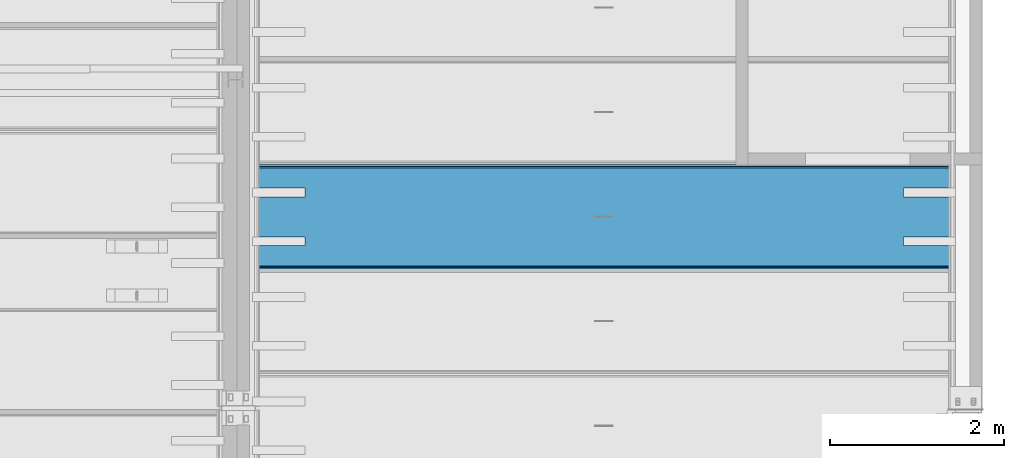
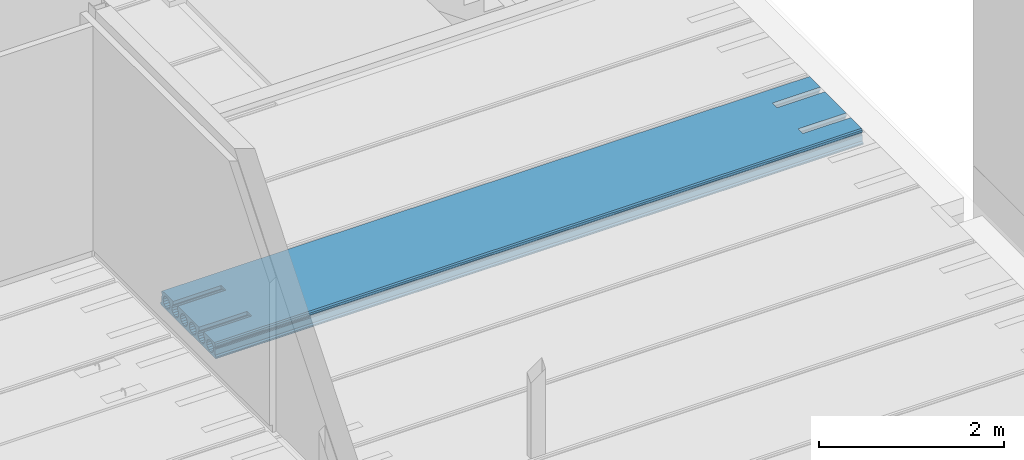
# One storey, part 121 of 230: 1 beam.
"""IFC4X3_ADD2 building model written with IfcOpenShell, lengths in millimetres."""

from ifc_helpers import new_model, si_unit, direction, origin_with_axes, place, context, subcontext, project, spatial, polygons, element, save


model = new_model("IFC4X3_ADD2")

# Units and contexts
model_context = context("Model", 3, precision=1e-05, world=origin_with_axes(), true_north=direction((0.0, 1.0)))
body_context = subcontext(model_context, "Body", "Model", "MODEL_VIEW")
ifc_project = project(units=[si_unit("LENGTHUNIT", "METRE", prefix="MILLI"), si_unit("AREAUNIT", "SQUARE_METRE"), si_unit("VOLUMEUNIT", "CUBIC_METRE"), si_unit("PLANEANGLEUNIT", "RADIAN"), si_unit("TIMEUNIT", "SECOND"), si_unit("MASSUNIT", "GRAM")], contexts=[model_context])

# Site, building, storey
site_placement = place(None, origin_with_axes())
site = spatial("IfcSite", under=ifc_project, at=site_placement, Name="Site", CompositionType="ELEMENT")
building_placement = place(site_placement, origin_with_axes())
building = spatial("IfcBuilding", under=site, at=building_placement, Name="IFC Building Story")
storey_placement = place(building_placement, origin_with_axes())
storey = spatial("IfcBuildingStorey", under=building, at=storey_placement, Name="ETAGE 00 (0)", Elevation=0.0)

# Beam
beam_placement = place(storey_placement, origin_with_axes())
element("IfcBeam", 1, at=beam_placement, inside=storey, Name="HOLLOWCORE SLAB", ObjectType="EB_SP200", context=body_context, shape_type="Tessellation", body=[
    polygons([(40131.189, 15349.0, 3999.9999909), (40131.189, 14171.0, 3999.9999909), (40131.189, 14160.0, 4012.9999909), (40131.189, 14160.0, 4029.9999909), (40131.189, 14180.0, 4044.9999909), (40131.189, 14181.45001220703, 4119.9999909), (40131.189, 14188.98262147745, 4128.676139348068), (40131.189, 14191.83993001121, 4139.805000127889), (40131.189, 14189.41863641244, 4151.036789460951), (40131.189, 14182.22998046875, 4159.9999909), (40131.189, 14182.71129616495, 4185.002769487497), (40131.189, 14198.0, 4199.9999909), (40131.189, 14430.0, 4199.9999909), (40131.189, 14430.0, 4155.806158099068), (40131.189, 14425.3205448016, 4152.679446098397), (40131.189, 14409.17097482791, 4128.509906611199), (40131.189, 14403.5, 4099.9999909), (40131.189, 14409.17097482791, 4071.490075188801), (40131.189, 14425.3205448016, 4047.320535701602), (40131.189, 14449.4900842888, 4031.170965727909), (40131.189, 14478.0, 4025.4999909), (40131.189, 14506.5099157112, 4031.170965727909), (40131.189, 14530.6794551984, 4047.320535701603), (40131.189, 14546.82902517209, 4071.490075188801), (40131.189, 14552.5, 4099.9999909), (40131.189, 14546.82902517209, 4128.509906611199), (40131.189, 14530.6794551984, 4152.679446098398), (40131.189, 14530.0, 4153.133443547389), (40131.189, 14530.0, 4199.9999909), (40131.189, 14990.0, 4199.9999909), (40131.189, 14990.0, 4153.133443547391), (40131.189, 14989.3205448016, 4152.679446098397), (40131.189, 14973.17097482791, 4128.509906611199), (40131.189, 14967.5, 4099.9999909), (40131.189, 14973.17097482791, 4071.490075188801), (40131.189, 14989.3205448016, 4047.320535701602), (40131.189, 15013.4900842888, 4031.170965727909), (40131.189, 15042.0, 4025.4999909), (40131.189, 15070.5099157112, 4031.170965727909), (40131.189, 15094.6794551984, 4047.320535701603), (40131.189, 15110.82902517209, 4071.490075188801), (40131.189, 15116.5, 4099.9999909), (40131.189, 15110.82902517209, 4128.509906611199), (40131.189, 15094.6794551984, 4152.679446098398), (40131.189, 15090.0, 4155.806158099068), (40131.189, 15090.0, 4199.9999909), (40131.189, 15322.0, 4199.9999909), (40131.189, 15337.28870383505, 4185.002769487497), (40131.189, 15337.77001953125, 4159.9999909), (40131.189, 15330.58136358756, 4151.036789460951), (40131.189, 15328.16006998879, 4139.805000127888), (40131.189, 15331.01737852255, 4128.676139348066), (40131.189, 15338.54998779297, 4119.9999909), (40131.189, 15340.0, 4044.9999909), (40131.189, 15360.0, 4029.9999909), (40131.189, 15360.0, 4012.9999909), (40131.189, 15282.6794551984, 4152.679446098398), (40131.189, 15258.5099157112, 4168.829016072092), (40131.189, 15230.0, 4174.4999909), (40131.189, 15201.4900842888, 4168.829016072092), (40131.189, 15177.3205448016, 4152.679446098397), (40131.189, 15161.17097482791, 4128.509906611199), (40131.189, 15155.5, 4099.9999909), (40131.189, 15161.17097482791, 4071.490075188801), (40131.189, 15177.3205448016, 4047.320535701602), (40131.189, 15201.4900842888, 4031.170965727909), (40131.189, 15230.0, 4025.4999909), (40131.189, 15258.5099157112, 4031.170965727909), (40131.189, 15282.6794551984, 4047.320535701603), (40131.189, 15298.82902517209, 4071.490075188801), (40131.189, 15304.5, 4099.9999909), (40131.189, 15298.82902517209, 4128.509906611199), (40131.189, 14906.6794551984, 4152.679446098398), (40131.189, 14882.5099157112, 4168.829016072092), (40131.189, 14854.0, 4174.4999909), (40131.189, 14825.4900842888, 4168.829016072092), (40131.189, 14801.3205448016, 4152.679446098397), (40131.189, 14785.17097482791, 4128.509906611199), (40131.189, 14779.5, 4099.9999909), (40131.189, 14785.17097482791, 4071.490075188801), (40131.189, 14801.3205448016, 4047.320535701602), (40131.189, 14825.4900842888, 4031.170965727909), (40131.189, 14854.0, 4025.4999909), (40131.189, 14882.5099157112, 4031.170965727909), (40131.189, 14906.6794551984, 4047.320535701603), (40131.189, 14922.82902517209, 4071.490075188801), (40131.189, 14928.5, 4099.9999909), (40131.189, 14922.82902517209, 4128.509906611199), (40131.189, 14718.6794551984, 4152.679446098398), (40131.189, 14694.5099157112, 4168.829016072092), (40131.189, 14666.0, 4174.4999909), (40131.189, 14637.4900842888, 4168.829016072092), (40131.189, 14613.3205448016, 4152.679446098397), (40131.189, 14597.17097482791, 4128.509906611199), (40131.189, 14591.5, 4099.9999909), (40131.189, 14597.17097482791, 4071.490075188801), (40131.189, 14613.3205448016, 4047.320535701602), (40131.189, 14637.4900842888, 4031.170965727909), (40131.189, 14666.0, 4025.4999909), (40131.189, 14694.5099157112, 4031.170965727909), (40131.189, 14718.6794551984, 4047.320535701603), (40131.189, 14734.82902517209, 4071.490075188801), (40131.189, 14740.5, 4099.9999909), (40131.189, 14734.82902517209, 4128.509906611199), (40131.189, 14342.6794551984, 4152.679446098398), (40131.189, 14318.5099157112, 4168.829016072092), (40131.189, 14290.0, 4174.4999909), (40131.189, 14261.4900842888, 4168.829016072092), (40131.189, 14237.3205448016, 4152.679446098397), (40131.189, 14221.17097482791, 4128.509906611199), (40131.189, 14215.5, 4099.9999909), (40131.189, 14221.17097482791, 4071.490075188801), (40131.189, 14237.3205448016, 4047.320535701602), (40131.189, 14261.4900842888, 4031.170965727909), (40131.189, 14290.0, 4025.4999909), (40131.189, 14318.5099157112, 4031.170965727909), (40131.189, 14342.6794551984, 4047.320535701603), (40131.189, 14358.82902517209, 4071.490075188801), (40131.189, 14364.5, 4099.9999909), (40131.189, 14358.82902517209, 4128.509906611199), (48196.189, 15349.0, 3999.9999909), (48196.189, 15360.0, 4012.9999909), (48196.189, 15360.0, 4029.9999909), (48196.189, 15340.0, 4044.9999909), (48196.189, 15338.54998779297, 4119.9999909), (48196.189, 15331.01737852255, 4128.676139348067), (48196.189, 15328.16006998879, 4139.805000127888), (48196.189, 15330.58136358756, 4151.036789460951), (48196.189, 15337.77001953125, 4159.9999909), (48196.189, 15337.28870383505, 4185.002769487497), (48196.189, 15322.0, 4199.9999909), (48196.189, 15090.0, 4199.9999909), (48196.189, 15090.0, 4155.806158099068), (48196.189, 15094.6794551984, 4152.679446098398), (48196.189, 15110.82902517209, 4128.509906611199), (48196.189, 15116.5, 4099.9999909), (48196.189, 15110.82902517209, 4071.490075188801), (48196.189, 15094.6794551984, 4047.320535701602), (48196.189, 15070.5099157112, 4031.170965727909), (48196.189, 15042.0, 4025.4999909), (48196.189, 15013.4900842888, 4031.170965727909), (48196.189, 14989.3205448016, 4047.320535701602), (48196.189, 14973.17097482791, 4071.490075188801), (48196.189, 14967.5, 4099.9999909), (48196.189, 14973.17097482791, 4128.509906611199), (48196.189, 14989.3205448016, 4152.679446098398), (48196.189, 14990.0, 4153.133443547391), (48196.189, 14990.0, 4199.9999909), (48196.189, 14530.0, 4199.9999909), (48196.189, 14530.0, 4153.133443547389), (48196.189, 14530.6794551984, 4152.679446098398), (48196.189, 14546.82902517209, 4128.509906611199), (48196.189, 14552.5, 4099.9999909), (48196.189, 14546.82902517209, 4071.490075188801), (48196.189, 14530.6794551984, 4047.320535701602), (48196.189, 14506.5099157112, 4031.170965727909), (48196.189, 14478.0, 4025.4999909), (48196.189, 14449.4900842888, 4031.170965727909), (48196.189, 14425.3205448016, 4047.320535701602), (48196.189, 14409.17097482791, 4071.490075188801), (48196.189, 14403.5, 4099.9999909), (48196.189, 14409.17097482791, 4128.509906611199), (48196.189, 14425.3205448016, 4152.679446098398), (48196.189, 14430.0, 4155.806158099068), (48196.189, 14430.0, 4199.9999909), (48196.189, 14198.0, 4199.9999909), (48196.189, 14182.71129616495, 4185.002769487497), (48196.189, 14182.22998046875, 4159.9999909), (48196.189, 14189.41863641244, 4151.036789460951), (48196.189, 14191.83993001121, 4139.805000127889), (48196.189, 14188.98262147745, 4128.676139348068), (48196.189, 14181.45001220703, 4119.9999909), (48196.189, 14180.0, 4044.9999909), (48196.189, 14160.0, 4029.9999909), (48196.189, 14160.0, 4012.9999909), (48196.189, 14171.0, 3999.9999909), (48196.189, 15282.6794551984, 4152.679446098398), (48196.189, 15298.82902517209, 4128.509906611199), (48196.189, 15304.5, 4099.9999909), (48196.189, 15298.82902517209, 4071.490075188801), (48196.189, 15282.6794551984, 4047.320535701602), (48196.189, 15258.5099157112, 4031.170965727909), (48196.189, 15230.0, 4025.4999909), (48196.189, 15201.4900842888, 4031.170965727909), (48196.189, 15177.3205448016, 4047.320535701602), (48196.189, 15161.17097482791, 4071.490075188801), (48196.189, 15155.5, 4099.9999909), (48196.189, 15161.17097482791, 4128.509906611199), (48196.189, 15177.3205448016, 4152.679446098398), (48196.189, 15201.4900842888, 4168.829016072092), (48196.189, 15230.0, 4174.4999909), (48196.189, 15258.5099157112, 4168.829016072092), (48196.189, 14906.6794551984, 4152.679446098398), (48196.189, 14922.82902517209, 4128.509906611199), (48196.189, 14928.5, 4099.9999909), (48196.189, 14922.82902517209, 4071.490075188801), (48196.189, 14906.6794551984, 4047.320535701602), (48196.189, 14882.5099157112, 4031.170965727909), (48196.189, 14854.0, 4025.4999909), (48196.189, 14825.4900842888, 4031.170965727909), (48196.189, 14801.3205448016, 4047.320535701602), (48196.189, 14785.17097482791, 4071.490075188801), (48196.189, 14779.5, 4099.9999909), (48196.189, 14785.17097482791, 4128.509906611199), (48196.189, 14801.3205448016, 4152.679446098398), (48196.189, 14825.4900842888, 4168.829016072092), (48196.189, 14854.0, 4174.4999909), (48196.189, 14882.5099157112, 4168.829016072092), (48196.189, 14718.6794551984, 4152.679446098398), (48196.189, 14734.82902517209, 4128.509906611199), (48196.189, 14740.5, 4099.9999909), (48196.189, 14734.82902517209, 4071.490075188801), (48196.189, 14718.6794551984, 4047.320535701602), (48196.189, 14694.5099157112, 4031.170965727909), (48196.189, 14666.0, 4025.4999909), (48196.189, 14637.4900842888, 4031.170965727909), (48196.189, 14613.3205448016, 4047.320535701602), (48196.189, 14597.17097482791, 4071.490075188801), (48196.189, 14591.5, 4099.9999909), (48196.189, 14597.17097482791, 4128.509906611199), (48196.189, 14613.3205448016, 4152.679446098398), (48196.189, 14637.4900842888, 4168.829016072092), (48196.189, 14666.0, 4174.4999909), (48196.189, 14694.5099157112, 4168.829016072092), (48196.189, 14342.6794551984, 4152.679446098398), (48196.189, 14358.82902517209, 4128.509906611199), (48196.189, 14364.5, 4099.9999909), (48196.189, 14358.82902517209, 4071.490075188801), (48196.189, 14342.6794551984, 4047.320535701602), (48196.189, 14318.5099157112, 4031.170965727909), (48196.189, 14290.0, 4025.4999909), (48196.189, 14261.4900842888, 4031.170965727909), (48196.189, 14237.3205448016, 4047.320535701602), (48196.189, 14221.17097482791, 4071.490075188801), (48196.189, 14215.5, 4099.9999909), (48196.189, 14221.17097482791, 4128.509906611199), (48196.189, 14237.3205448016, 4152.679446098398), (48196.189, 14261.4900842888, 4168.829016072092), (48196.189, 14290.0, 4174.4999909), (48196.189, 14318.5099157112, 4168.829016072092), (40731.189, 15090.0, 4199.9999909), (40731.189, 14990.0, 4199.9999909), (40731.189, 14530.0, 4199.9999909), (40731.189, 14430.0, 4199.9999909), (47596.18900000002, 14430.0, 4199.9999909), (47596.18900000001, 14530.0, 4199.9999909), (47596.18900000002, 14990.0, 4199.9999909), (47596.18900000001, 15090.0, 4199.9999909), (47596.18900000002, 15090.0, 4155.806158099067), (47596.18900000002, 15070.5099157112, 4168.829016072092), (40731.189, 15070.5099157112, 4168.82901607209), (40731.189, 15090.0, 4155.806158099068), (47596.18900000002, 15042.0, 4174.4999909), (40731.189, 15042.0, 4174.4999909), (47596.18900000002, 15013.4900842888, 4168.829016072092), (40731.189, 15013.4900842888, 4168.82901607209), (40731.189, 14990.0, 4153.133443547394), (47596.18900000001, 14990.0, 4153.133443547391), (47596.18900000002, 14530.0, 4153.133443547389), (47596.18900000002, 14506.5099157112, 4168.829016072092), (40731.189, 14506.5099157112, 4168.82901607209), (40731.189, 14530.0, 4153.13344354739), (47596.18900000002, 14478.0, 4174.4999909), (40731.189, 14478.0, 4174.4999909), (47596.18900000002, 14449.4900842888, 4168.829016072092), (40731.189, 14449.4900842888, 4168.829016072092), (40731.189, 14430.0, 4155.806158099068), (47596.18900000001, 14430.0, 4155.806158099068), (40731.189, 14990.0, 4199.999996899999), (40731.189, 15090.0, 4199.999996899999), (47596.18900000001, 15090.0, 4199.999996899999), (47596.18900000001, 14990.0, 4199.999996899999), (47596.18900000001, 14530.0, 4199.999996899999), (47596.18900000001, 14430.0, 4199.999996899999), (40731.189, 14430.0, 4199.999996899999), (40731.189, 14530.0, 4199.999996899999)], [[[27, 28, 29]], [[92, 93, 26]], [[92, 26, 27]], [[92, 27, 29]], [[29, 91, 92]], [[91, 29, 30]], [[30, 90, 91]], [[30, 89, 90]], [[94, 95, 25]], [[94, 25, 26]], [[26, 93, 94]], [[96, 97, 24]], [[24, 25, 95]], [[24, 95, 96]], [[97, 23, 24]], [[76, 77, 104]], [[76, 104, 89]], [[89, 75, 76]], [[75, 89, 30]], [[30, 74, 75]], [[30, 73, 74]], [[78, 79, 103]], [[78, 103, 104]], [[104, 77, 78]], [[80, 81, 102]], [[102, 103, 79]], [[102, 79, 80]], [[81, 101, 102]], [[88, 73, 30]], [[88, 30, 31]], [[33, 34, 87]], [[33, 87, 88]], [[88, 32, 33]], [[88, 31, 32]], [[35, 36, 86]], [[86, 87, 34]], [[86, 34, 35]], [[36, 85, 86]], [[44, 45, 46]], [[60, 61, 43]], [[60, 43, 44]], [[60, 44, 46]], [[46, 59, 60]], [[46, 47, 59]], [[47, 58, 59]], [[47, 57, 58]], [[62, 63, 42]], [[62, 42, 43]], [[43, 61, 62]], [[64, 65, 41]], [[41, 42, 63]], [[41, 63, 64]], [[50, 51, 72]], [[50, 72, 57]], [[57, 47, 48]], [[57, 48, 49]], [[57, 49, 50]], [[52, 53, 71]], [[52, 71, 72]], [[72, 51, 52]], [[53, 54, 70]], [[53, 70, 71]], [[54, 55, 56]], [[54, 56, 1]], [[1, 69, 70]], [[1, 70, 54]], [[1, 68, 69]], [[1, 67, 68]], [[1, 66, 67]], [[1, 40, 66]], [[40, 41, 65]], [[40, 65, 66]], [[1, 39, 40]], [[1, 38, 39]], [[1, 84, 38]], [[84, 37, 38]], [[84, 85, 36]], [[84, 36, 37]], [[1, 83, 84]], [[1, 100, 83]], [[100, 82, 83]], [[100, 101, 81]], [[100, 81, 82]], [[1, 99, 100]], [[1, 22, 99]], [[22, 98, 99]], [[22, 23, 97]], [[22, 97, 98]], [[1, 21, 22]], [[1, 2, 21]], [[2, 20, 21]], [[2, 19, 20]], [[9, 10, 11]], [[9, 11, 12]], [[109, 110, 8]], [[109, 8, 9]], [[9, 12, 108]], [[9, 108, 109]], [[12, 107, 108]], [[107, 12, 13]], [[13, 106, 107]], [[13, 105, 106]], [[110, 7, 8]], [[112, 113, 5]], [[5, 6, 111]], [[5, 111, 112]], [[6, 7, 110]], [[6, 110, 111]], [[116, 117, 18]], [[116, 18, 19]], [[19, 115, 116]], [[19, 2, 115]], [[2, 114, 115]], [[2, 5, 113]], [[2, 113, 114]], [[2, 3, 4]], [[2, 4, 5]], [[118, 119, 17]], [[118, 17, 18]], [[18, 117, 118]], [[120, 105, 16]], [[16, 17, 119]], [[16, 119, 120]], [[105, 13, 15]], [[105, 15, 16]], [[13, 14, 15]], [[173, 174, 175]], [[173, 175, 176]], [[128, 129, 130]], [[128, 130, 131]], [[128, 131, 177]], [[177, 178, 127]], [[177, 127, 128]], [[178, 126, 127]], [[180, 181, 124]], [[124, 125, 179]], [[124, 179, 180]], [[125, 126, 178]], [[125, 178, 179]], [[192, 177, 131]], [[131, 191, 192]], [[191, 131, 132]], [[132, 190, 191]], [[132, 189, 190]], [[132, 133, 188]], [[132, 188, 189]], [[135, 136, 187]], [[135, 187, 188]], [[188, 134, 135]], [[188, 133, 134]], [[137, 138, 186]], [[186, 187, 136]], [[186, 136, 137]], [[138, 139, 185]], [[138, 185, 186]], [[139, 184, 185]], [[146, 147, 148]], [[148, 193, 145]], [[148, 145, 146]], [[194, 195, 144]], [[194, 144, 145]], [[145, 193, 194]], [[196, 197, 143]], [[143, 144, 195]], [[143, 195, 196]], [[197, 142, 143]], [[208, 193, 148]], [[148, 207, 208]], [[148, 209, 207]], [[209, 206, 207]], [[209, 205, 206]], [[209, 204, 205]], [[210, 211, 203]], [[210, 203, 204]], [[204, 209, 210]], [[212, 213, 202]], [[202, 203, 211]], [[202, 211, 212]], [[213, 201, 202]], [[224, 209, 148]], [[148, 223, 224]], [[148, 149, 223]], [[149, 222, 223]], [[149, 221, 222]], [[149, 150, 220]], [[149, 220, 221]], [[152, 153, 219]], [[152, 219, 220]], [[220, 151, 152]], [[220, 150, 151]], [[154, 155, 218]], [[218, 219, 153]], [[218, 153, 154]], [[155, 217, 218]], [[163, 164, 165]], [[165, 225, 162]], [[165, 162, 163]], [[226, 227, 161]], [[226, 161, 162]], [[162, 225, 226]], [[228, 229, 160]], [[160, 161, 227]], [[160, 227, 228]], [[235, 236, 171]], [[235, 171, 172]], [[172, 173, 234]], [[172, 234, 235]], [[173, 176, 233]], [[173, 233, 234]], [[176, 232, 233]], [[176, 231, 232]], [[176, 230, 231]], [[176, 159, 230]], [[159, 160, 229]], [[159, 229, 230]], [[176, 158, 159]], [[176, 157, 158]], [[176, 216, 157]], [[216, 156, 157]], [[216, 217, 155]], [[216, 155, 156]], [[176, 215, 216]], [[176, 200, 215]], [[200, 214, 215]], [[200, 201, 213]], [[200, 213, 214]], [[176, 199, 200]], [[176, 141, 199]], [[141, 198, 199]], [[141, 142, 197]], [[141, 197, 198]], [[176, 140, 141]], [[176, 183, 140]], [[183, 184, 139]], [[183, 139, 140]], [[176, 121, 183]], [[121, 182, 183]], [[121, 124, 181]], [[121, 181, 182]], [[121, 122, 123]], [[121, 123, 124]], [[236, 170, 171]], [[240, 225, 165]], [[165, 239, 240]], [[165, 166, 239]], [[166, 238, 239]], [[166, 169, 237]], [[166, 237, 238]], [[169, 170, 236]], [[169, 236, 237]], [[166, 167, 168]], [[166, 168, 169]], [[2, 1, 121, 176]], [[3, 2, 176, 175]], [[4, 3, 175, 174]], [[5, 4, 174, 173]], [[6, 5, 173, 172]], [[7, 6, 172, 171]], [[8, 7, 171, 170]], [[9, 8, 170, 169]], [[10, 9, 169, 168]], [[11, 10, 168, 167]], [[12, 11, 167, 166]], [[242, 30, 29]], [[242, 29, 243]], [[244, 13, 12]], [[244, 12, 166]], [[166, 243, 244]], [[242, 243, 166]], [[166, 241, 242]], [[246, 149, 148]], [[246, 148, 247]], [[248, 132, 131]], [[248, 131, 47]], [[47, 247, 248]], [[246, 247, 47]], [[47, 245, 246]], [[47, 241, 166]], [[47, 166, 245]], [[166, 165, 245]], [[47, 46, 241]], [[48, 47, 131, 130]], [[49, 48, 130, 129]], [[50, 49, 129, 128]], [[51, 50, 128, 127]], [[52, 51, 127, 126]], [[53, 52, 126, 125]], [[54, 53, 125, 124]], [[55, 54, 124, 123]], [[56, 55, 123, 122]], [[1, 56, 122, 121]], [[58, 57, 177, 192]], [[59, 58, 192, 191]], [[60, 59, 191, 190]], [[61, 60, 190, 189]], [[62, 61, 189, 188]], [[63, 62, 188, 187]], [[64, 63, 187, 186]], [[65, 64, 186, 185]], [[66, 65, 185, 184]], [[67, 66, 184, 183]], [[68, 67, 183, 182]], [[69, 68, 182, 181]], [[70, 69, 181, 180]], [[71, 70, 180, 179]], [[72, 71, 179, 178]], [[57, 72, 178, 177]], [[252, 45, 44]], [[252, 44, 249]], [[249, 250, 251]], [[249, 251, 252]], [[44, 134, 249]], [[134, 133, 249]], [[251, 250, 253, 254]], [[254, 253, 255, 256]], [[258, 147, 146]], [[258, 146, 257]], [[257, 256, 255]], [[257, 255, 258]], [[146, 32, 257]], [[32, 31, 257]], [[33, 32, 146, 145]], [[34, 33, 145, 144]], [[35, 34, 144, 143]], [[36, 35, 143, 142]], [[37, 36, 142, 141]], [[38, 37, 141, 140]], [[39, 38, 140, 139]], [[40, 39, 139, 138]], [[41, 40, 138, 137]], [[42, 41, 137, 136]], [[43, 42, 136, 135]], [[44, 43, 135, 134]], [[74, 73, 193, 208]], [[75, 74, 208, 207]], [[76, 75, 207, 206]], [[77, 76, 206, 205]], [[78, 77, 205, 204]], [[79, 78, 204, 203]], [[80, 79, 203, 202]], [[81, 80, 202, 201]], [[82, 81, 201, 200]], [[83, 82, 200, 199]], [[84, 83, 199, 198]], [[85, 84, 198, 197]], [[86, 85, 197, 196]], [[87, 86, 196, 195]], [[88, 87, 195, 194]], [[73, 88, 194, 193]], [[90, 89, 209, 224]], [[91, 90, 224, 223]], [[92, 91, 223, 222]], [[93, 92, 222, 221]], [[94, 93, 221, 220]], [[95, 94, 220, 219]], [[96, 95, 219, 218]], [[97, 96, 218, 217]], [[98, 97, 217, 216]], [[99, 98, 216, 215]], [[100, 99, 215, 214]], [[101, 100, 214, 213]], [[102, 101, 213, 212]], [[103, 102, 212, 211]], [[104, 103, 211, 210]], [[89, 104, 210, 209]], [[262, 28, 27]], [[262, 27, 259]], [[259, 260, 261]], [[259, 261, 262]], [[27, 151, 259]], [[151, 150, 259]], [[260, 263, 264, 261]], [[263, 265, 266, 264]], [[268, 164, 163]], [[268, 163, 267]], [[267, 266, 265]], [[267, 265, 268]], [[163, 15, 267]], [[15, 14, 267]], [[16, 15, 163, 162]], [[17, 16, 162, 161]], [[18, 17, 161, 160]], [[19, 18, 160, 159]], [[20, 19, 159, 158]], [[21, 20, 158, 157]], [[22, 21, 157, 156]], [[23, 22, 156, 155]], [[24, 23, 155, 154]], [[25, 24, 154, 153]], [[26, 25, 153, 152]], [[27, 26, 152, 151]], [[106, 105, 225, 240]], [[107, 106, 240, 239]], [[108, 107, 239, 238]], [[109, 108, 238, 237]], [[110, 109, 237, 236]], [[111, 110, 236, 235]], [[112, 111, 235, 234]], [[113, 112, 234, 233]], [[114, 113, 233, 232]], [[115, 114, 232, 231]], [[116, 115, 231, 230]], [[117, 116, 230, 229]], [[118, 117, 229, 228]], [[119, 118, 228, 227]], [[120, 119, 227, 226]], [[105, 120, 226, 225]], [[46, 45, 252, 241]], [[31, 30, 269, 257]], [[256, 257, 242]], [[242, 270, 254]], [[242, 254, 256]], [[270, 251, 254]], [[270, 252, 251]], [[148, 147, 258, 247]], [[133, 132, 271, 249]], [[250, 249, 248]], [[248, 253, 250]], [[248, 272, 255]], [[248, 255, 253]], [[272, 258, 255]], [[165, 164, 268, 245]], [[150, 149, 273, 259]], [[260, 259, 246]], [[246, 274, 263]], [[246, 263, 260]], [[274, 265, 263]], [[274, 268, 265]], [[262, 243, 29, 28]], [[275, 267, 14, 13]], [[266, 267, 244]], [[244, 264, 266]], [[244, 276, 261]], [[244, 261, 264]], [[276, 262, 261]]]),
])

save(model, "model.ifc")
